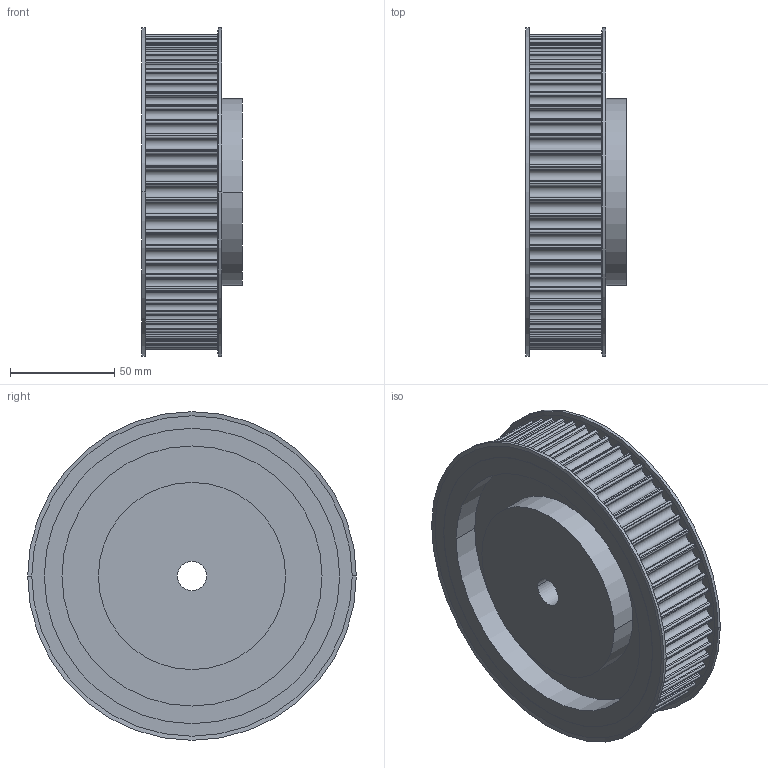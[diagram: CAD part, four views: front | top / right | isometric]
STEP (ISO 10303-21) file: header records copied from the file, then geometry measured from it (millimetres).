
FILE_DESCRIPTION( ( '' ), '1' );
FILE_NAME( 'C:/Users/Stangenbergd/Documents/CAD_Step/1/17423000.stp', '2021-10-19T10:11:02', ( '' ), ( '' ), ' ', ' ', ' ' );
FILE_SCHEMA( ( 'CONFIG_CONTROL_DESIGN' ) );
Length unit declared in the file: millimetre
Products named in the file (1): 1
Bounding box: 48.13 x 158 x 158 mm (x, y, z)
Volume: 560423.2 mm3; surface area: 92133 mm2
Topology: 1 solids, 1 shells, 396 faces, 1150 edges, 764 vertices
Faces by surface type: cylinder 258, plane 130, cone 8
Entity records: 13342 total; most frequent: DIRECTION 2468, CARTESIAN_POINT 2311, ORIENTED_EDGE 2300, EDGE_CURVE 1150, AXIS2_PLACEMENT_3D 921, VERTEX_POINT 764, LINE 626, VECTOR 626
